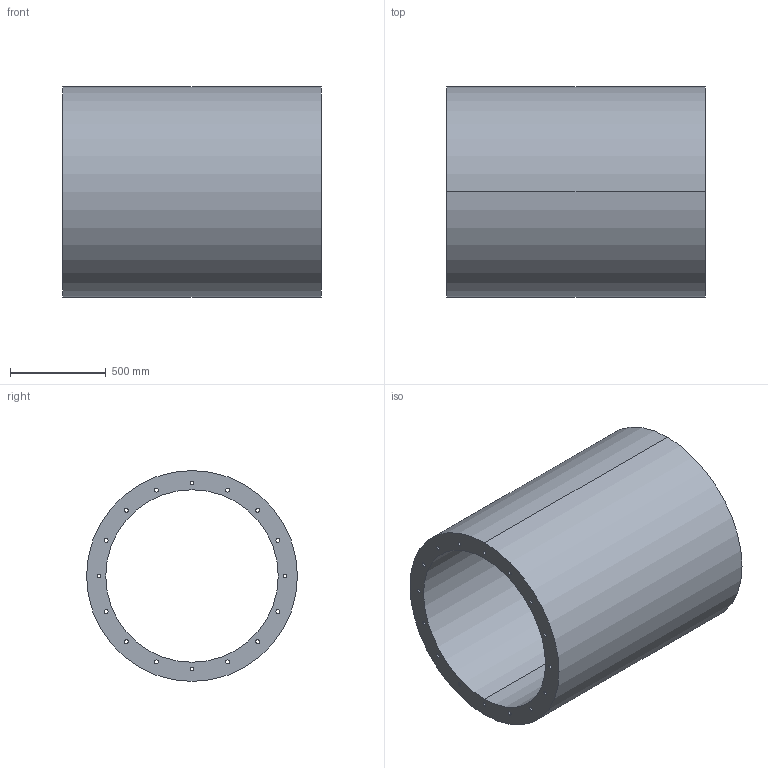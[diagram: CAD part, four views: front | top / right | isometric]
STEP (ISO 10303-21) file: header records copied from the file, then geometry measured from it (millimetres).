
FILE_DESCRIPTION(('STEP AP214'),'1');
FILE_NAME('accessory_5211812400.stp','2017-10-09T11:37:42',('TraceParts'),('TraceParts S.A.'),'Spatial InterOp 3D',' ',' ');
FILE_SCHEMA(('automotive_design'));
Length unit declared in the file: millimetre
Products named in the file (1): accessory_5211812400
Bounding box: 1350 x 1100 x 1100 mm (x, y, z)
Volume: 417329168.1 mm3; surface area: 10457733.6 mm2
Topology: 1 solids, 1 shells, 38 faces, 108 edges, 72 vertices
Faces by surface type: cylinder 36, plane 2
Entity records: 1672 total; most frequent: DIRECTION 258, CARTESIAN_POINT 219, ORIENTED_EDGE 216, AXIS2_PLACEMENT_3D 111, EDGE_CURVE 108, EDGE_LOOP 72, VERTEX_POINT 72, CIRCLE 72
